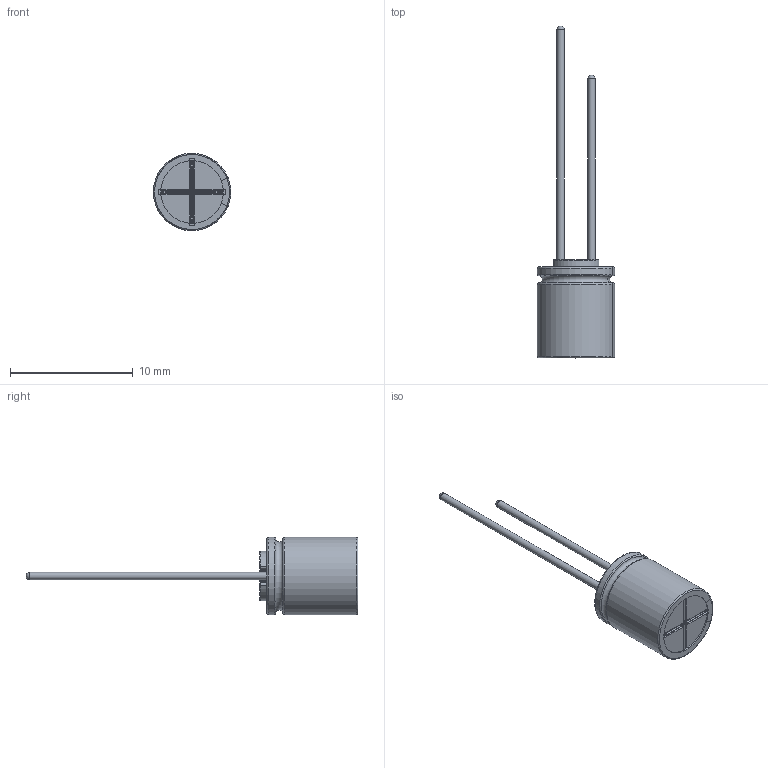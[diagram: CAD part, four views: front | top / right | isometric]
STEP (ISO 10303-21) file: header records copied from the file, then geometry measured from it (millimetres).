
FILE_DESCRIPTION(/* description */ (''),/* implementation_level */ '2;1');
FILE_NAME(/* name */ '6.3x8_Lead.stp',/* time_stamp */ '2017-09-05T13:41:45+09:00',/* author */ (''),/* organization */ (''),/* preprocessor_version */ 'ST-DEVELOPER v16',/* originating_system */ 'SIEMENS PLM Software NX 11.0',/* authorisation */ '');
FILE_SCHEMA (('AUTOMOTIVE_DESIGN { 1 0 10303 214 3 1 1 1 }'));
Length unit declared in the file: millimetre
Products named in the file (1): 6.3x8_Lead_0
Bounding box: 6.29 x 27 x 6.3 mm (x, y, z)
Volume: 238 mm3; surface area: 625.5 mm2
Topology: 3 solids, 3 shells, 120 faces, 296 edges, 185 vertices
Faces by surface type: cylinder 52, plane 31, torus 27, sphere 6, bspline 4
Full cylindrical faces by diameter (mm): 0.6 x2, 6.1 x2
Entity records: 4235 total; most frequent: CARTESIAN_POINT 701, DIRECTION 684, ORIENTED_EDGE 568, EDGE_CURVE 284, AXIS2_PLACEMENT_3D 283, VERTEX_POINT 180, CIRCLE 158, EDGE_LOOP 130
